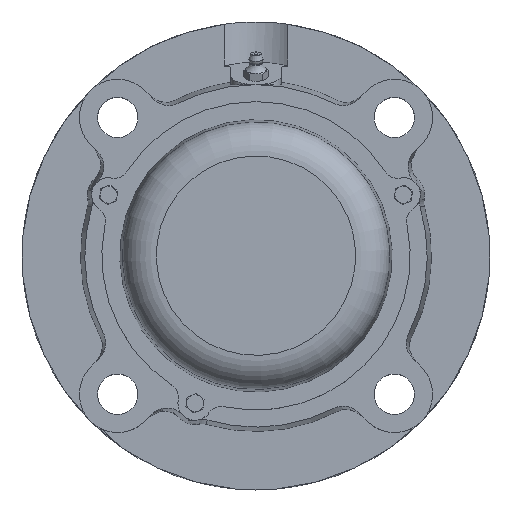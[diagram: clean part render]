
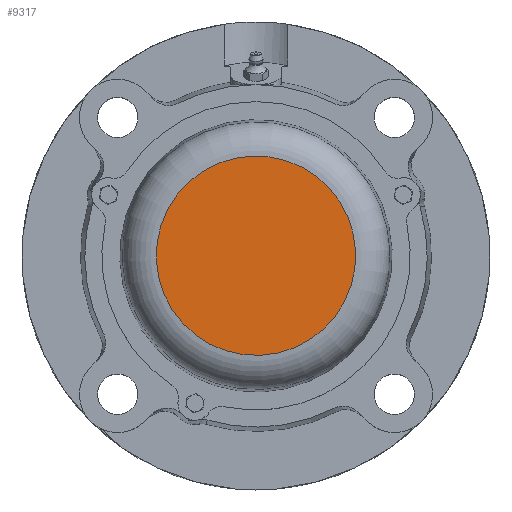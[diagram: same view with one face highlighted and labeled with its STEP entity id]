
A CAD part, top view. The second image highlights one B-rep face of the part: STEP entity #9317.
In plain terms, the highlighted planar face has unit normal (0, 0, 1).
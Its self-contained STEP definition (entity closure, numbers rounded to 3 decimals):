
#9286=CARTESIAN_POINT('',(-46.864,0.0,42.0));
#9287=VERTEX_POINT('',#9286);
#9288=CARTESIAN_POINT('',(0.0,0.0,42.0));
#9289=DIRECTION('',(0.0,0.0,-1.0));
#9290=DIRECTION('',(1.0,0.0,0.0));
#9291=AXIS2_PLACEMENT_3D('',#9288,#9289,#9290);
#9292=CIRCLE('',#9291,46.864);
#9293=EDGE_CURVE('',#9287,#9287,#9292,.T.);
#9309=CARTESIAN_POINT('',(0.0,0.0,42.0));
#9310=DIRECTION('',(0.0,0.0,-1.0));
#9311=DIRECTION('',(-1.0,0.0,0.0));
#9312=AXIS2_PLACEMENT_3D('',#9309,#9310,#9311);
#9313=PLANE('',#9312);
#9314=ORIENTED_EDGE('',*,*,#9293,.F.);
#9315=EDGE_LOOP('',(#9314));
#9316=FACE_OUTER_BOUND('',#9315,.T.);
#9317=ADVANCED_FACE('',(#9316),#9313,.F.);
